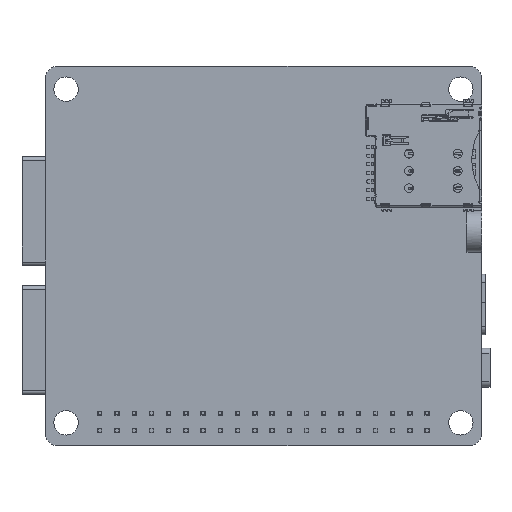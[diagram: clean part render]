
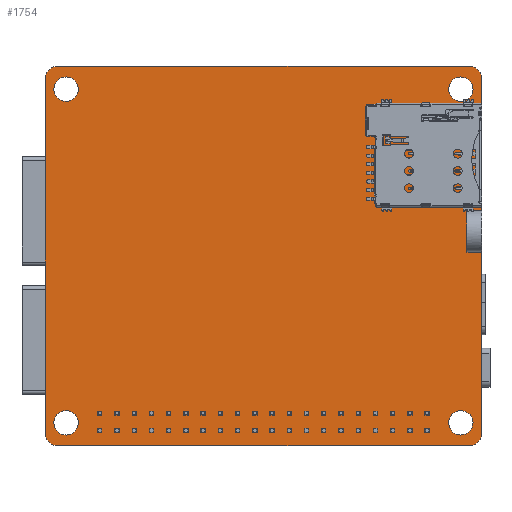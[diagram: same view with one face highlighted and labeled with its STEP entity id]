
A CAD part, top view. The second image highlights one B-rep face of the part: STEP entity #1754.
In plain terms, the highlighted planar face has unit normal (0, 0, 1) as drawn and (0, 0, -1) by its records, which use the part's own axes.
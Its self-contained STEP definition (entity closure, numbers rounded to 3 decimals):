
#1174=DIRECTION('',(1.,0.,0.));
#1175=VECTOR('',#1174,2.2);
#1176=CARTESIAN_POINT('',(30.,-0.55,0.));
#1177=LINE('',#1176,#1175);
#1181=CARTESIAN_POINT('',(30.2,26.,0.));
#1182=DIRECTION('',(0.,0.,1.));
#1183=DIRECTION('',(1.,0.,0.));
#1184=AXIS2_PLACEMENT_3D('',#1181,#1182,#1183);
#1189=CARTESIAN_POINT('',(-30.2,26.,0.));
#1190=DIRECTION('',(0.,0.,1.));
#1191=DIRECTION('',(0.,1.,0.));
#1192=AXIS2_PLACEMENT_3D('',#1189,#1190,#1191);
#1197=CARTESIAN_POINT('',(-30.2,-26.,0.));
#1198=DIRECTION('',(0.,0.,1.));
#1199=DIRECTION('',(-1.,0.,0.));
#1200=AXIS2_PLACEMENT_3D('',#1197,#1198,#1199);
#1205=CARTESIAN_POINT('',(30.2,-26.,0.));
#1206=DIRECTION('',(0.,0.,1.));
#1207=DIRECTION('',(0.,-1.,0.));
#1208=AXIS2_PLACEMENT_3D('',#1205,#1206,#1207);
#1213=DIRECTION('',(0.,1.,0.));
#1214=VECTOR('',#1213,6.1);
#1215=CARTESIAN_POINT('',(30.,-6.65,0.));
#1216=LINE('',#1215,#1214);
#1220=CARTESIAN_POINT('',(29.1,24.6,0.));
#1221=DIRECTION('',(0.,0.,-1.));
#1222=DIRECTION('',(-1.,0.,0.));
#1223=AXIS2_PLACEMENT_3D('',#1220,#1221,#1222);
#1228=CARTESIAN_POINT('',(29.1,24.6,0.));
#1229=DIRECTION('',(0.,0.,-1.));
#1230=DIRECTION('',(1.,0.,0.));
#1231=AXIS2_PLACEMENT_3D('',#1228,#1229,#1230);
#1236=CARTESIAN_POINT('',(-29.1,-24.6,0.));
#1237=DIRECTION('',(0.,0.,-1.));
#1238=DIRECTION('',(-1.,0.,0.));
#1239=AXIS2_PLACEMENT_3D('',#1236,#1237,#1238);
#1244=CARTESIAN_POINT('',(-29.1,-24.6,0.));
#1245=DIRECTION('',(0.,0.,-1.));
#1246=DIRECTION('',(1.,0.,0.));
#1247=AXIS2_PLACEMENT_3D('',#1244,#1245,#1246);
#1252=CARTESIAN_POINT('',(29.1,-24.6,0.));
#1253=DIRECTION('',(0.,0.,-1.));
#1254=DIRECTION('',(-1.,0.,0.));
#1255=AXIS2_PLACEMENT_3D('',#1252,#1253,#1254);
#1260=CARTESIAN_POINT('',(29.1,-24.6,0.));
#1261=DIRECTION('',(0.,0.,-1.));
#1262=DIRECTION('',(1.,0.,0.));
#1263=AXIS2_PLACEMENT_3D('',#1260,#1261,#1262);
#1268=CARTESIAN_POINT('',(-29.1,24.6,0.));
#1269=DIRECTION('',(0.,0.,-1.));
#1270=DIRECTION('',(-1.,0.,0.));
#1271=AXIS2_PLACEMENT_3D('',#1268,#1269,#1270);
#1276=CARTESIAN_POINT('',(-29.1,24.6,0.));
#1277=DIRECTION('',(0.,0.,-1.));
#1278=DIRECTION('',(1.,0.,0.));
#1279=AXIS2_PLACEMENT_3D('',#1276,#1277,#1278);
#1319=DIRECTION('',(1.,0.,0.));
#1320=VECTOR('',#1319,2.2);
#1321=CARTESIAN_POINT('',(30.,-6.65,0.));
#1322=LINE('',#1321,#1320);
#1333=DIRECTION('',(0.,-1.,0.));
#1334=VECTOR('',#1333,19.35);
#1335=CARTESIAN_POINT('',(32.2,-6.65,0.));
#1336=LINE('',#1335,#1334);
#1354=DIRECTION('',(-1.,0.,0.));
#1355=VECTOR('',#1354,60.4);
#1356=CARTESIAN_POINT('',(30.2,-28.,0.));
#1357=LINE('',#1356,#1355);
#1375=DIRECTION('',(0.,1.,0.));
#1376=VECTOR('',#1375,52.);
#1377=CARTESIAN_POINT('',(-32.2,-26.,0.));
#1378=LINE('',#1377,#1376);
#1396=DIRECTION('',(1.,0.,0.));
#1397=VECTOR('',#1396,60.4);
#1398=CARTESIAN_POINT('',(-30.2,28.,0.));
#1399=LINE('',#1398,#1397);
#1541=DIRECTION('',(0.,-1.,0.));
#1542=VECTOR('',#1541,26.55);
#1543=CARTESIAN_POINT('',(32.2,26.,0.));
#1544=LINE('',#1543,#1542);
#1604=CARTESIAN_POINT('',(30.,-0.55,0.));
#1605=CARTESIAN_POINT('',(32.2,-0.55,0.));
#1606=VERTEX_POINT('',#1604);
#1607=VERTEX_POINT('',#1605);
#1608=CARTESIAN_POINT('',(32.2,26.,0.));
#1609=VERTEX_POINT('',#1608);
#1610=CARTESIAN_POINT('',(30.2,28.,0.));
#1611=VERTEX_POINT('',#1610);
#1612=CARTESIAN_POINT('',(-30.2,28.,0.));
#1613=VERTEX_POINT('',#1612);
#1614=CARTESIAN_POINT('',(-32.2,26.,0.));
#1615=VERTEX_POINT('',#1614);
#1616=CARTESIAN_POINT('',(-32.2,-26.,0.));
#1617=VERTEX_POINT('',#1616);
#1618=CARTESIAN_POINT('',(-30.2,-28.,0.));
#1619=VERTEX_POINT('',#1618);
#1620=CARTESIAN_POINT('',(30.2,-28.,0.));
#1621=VERTEX_POINT('',#1620);
#1622=CARTESIAN_POINT('',(32.2,-26.,0.));
#1623=VERTEX_POINT('',#1622);
#1624=CARTESIAN_POINT('',(32.2,-6.65,0.));
#1625=VERTEX_POINT('',#1624);
#1626=CARTESIAN_POINT('',(30.,-6.65,0.));
#1627=VERTEX_POINT('',#1626);
#1628=CARTESIAN_POINT('',(27.3,24.6,0.));
#1629=CARTESIAN_POINT('',(30.9,24.6,0.));
#1630=VERTEX_POINT('',#1628);
#1631=VERTEX_POINT('',#1629);
#1632=CARTESIAN_POINT('',(-30.9,-24.6,0.));
#1633=CARTESIAN_POINT('',(-27.3,-24.6,0.));
#1634=VERTEX_POINT('',#1632);
#1635=VERTEX_POINT('',#1633);
#1636=CARTESIAN_POINT('',(27.3,-24.6,0.));
#1637=CARTESIAN_POINT('',(30.9,-24.6,0.));
#1638=VERTEX_POINT('',#1636);
#1639=VERTEX_POINT('',#1637);
#1640=CARTESIAN_POINT('',(-30.9,24.6,0.));
#1641=CARTESIAN_POINT('',(-27.3,24.6,0.));
#1642=VERTEX_POINT('',#1640);
#1643=VERTEX_POINT('',#1641);
#1700=CARTESIAN_POINT('',(0.,0.,0.));
#1701=DIRECTION('',(0.,0.,1.));
#1702=DIRECTION('',(1.,0.,0.));
#1703=AXIS2_PLACEMENT_3D('',#1700,#1701,#1702);
#1704=PLANE('',#1703);
#1706=ORIENTED_EDGE('',*,*,#1705,.T.);
#1708=ORIENTED_EDGE('',*,*,#1707,.F.);
#1709=ORIENTED_EDGE('',*,*,#1689,.T.);
#1711=ORIENTED_EDGE('',*,*,#1710,.F.);
#1713=ORIENTED_EDGE('',*,*,#1712,.T.);
#1715=ORIENTED_EDGE('',*,*,#1714,.F.);
#1717=ORIENTED_EDGE('',*,*,#1716,.T.);
#1719=ORIENTED_EDGE('',*,*,#1718,.F.);
#1721=ORIENTED_EDGE('',*,*,#1720,.T.);
#1723=ORIENTED_EDGE('',*,*,#1722,.F.);
#1725=ORIENTED_EDGE('',*,*,#1724,.F.);
#1727=ORIENTED_EDGE('',*,*,#1726,.T.);
#1728=EDGE_LOOP('',(#1706,#1708,#1709,#1711,#1713,#1715,#1717,#1719,#1721,#1723,
#1725,#1727));
#1729=FACE_OUTER_BOUND('',#1728,.F.);
#1731=ORIENTED_EDGE('',*,*,#1730,.T.);
#1733=ORIENTED_EDGE('',*,*,#1732,.T.);
#1734=EDGE_LOOP('',(#1731,#1733));
#1735=FACE_BOUND('',#1734,.F.);
#1737=ORIENTED_EDGE('',*,*,#1736,.T.);
#1739=ORIENTED_EDGE('',*,*,#1738,.T.);
#1740=EDGE_LOOP('',(#1737,#1739));
#1741=FACE_BOUND('',#1740,.F.);
#1743=ORIENTED_EDGE('',*,*,#1742,.T.);
#1745=ORIENTED_EDGE('',*,*,#1744,.T.);
#1746=EDGE_LOOP('',(#1743,#1745));
#1747=FACE_BOUND('',#1746,.F.);
#1749=ORIENTED_EDGE('',*,*,#1748,.T.);
#1751=ORIENTED_EDGE('',*,*,#1750,.T.);
#1752=EDGE_LOOP('',(#1749,#1751));
#1753=FACE_BOUND('',#1752,.F.);
#1754=ADVANCED_FACE('',(#1729,#1735,#1741,#1747,#1753),#1704,.F.);
#1185=CIRCLE('',#1184,2.);
#1193=CIRCLE('',#1192,2.);
#1201=CIRCLE('',#1200,2.);
#1209=CIRCLE('',#1208,2.);
#1224=CIRCLE('',#1223,1.8);
#1232=CIRCLE('',#1231,1.8);
#1240=CIRCLE('',#1239,1.8);
#1248=CIRCLE('',#1247,1.8);
#1256=CIRCLE('',#1255,1.8);
#1264=CIRCLE('',#1263,1.8);
#1272=CIRCLE('',#1271,1.8);
#1280=CIRCLE('',#1279,1.8);
#1689=EDGE_CURVE('',#1609,#1611,#1185,.T.);
#1705=EDGE_CURVE('',#1606,#1607,#1177,.T.);
#1707=EDGE_CURVE('',#1609,#1607,#1544,.T.);
#1710=EDGE_CURVE('',#1613,#1611,#1399,.T.);
#1712=EDGE_CURVE('',#1613,#1615,#1193,.T.);
#1714=EDGE_CURVE('',#1617,#1615,#1378,.T.);
#1716=EDGE_CURVE('',#1617,#1619,#1201,.T.);
#1718=EDGE_CURVE('',#1621,#1619,#1357,.T.);
#1720=EDGE_CURVE('',#1621,#1623,#1209,.T.);
#1722=EDGE_CURVE('',#1625,#1623,#1336,.T.);
#1724=EDGE_CURVE('',#1627,#1625,#1322,.T.);
#1726=EDGE_CURVE('',#1627,#1606,#1216,.T.);
#1730=EDGE_CURVE('',#1630,#1631,#1224,.T.);
#1732=EDGE_CURVE('',#1631,#1630,#1232,.T.);
#1736=EDGE_CURVE('',#1634,#1635,#1240,.T.);
#1738=EDGE_CURVE('',#1635,#1634,#1248,.T.);
#1742=EDGE_CURVE('',#1638,#1639,#1256,.T.);
#1744=EDGE_CURVE('',#1639,#1638,#1264,.T.);
#1748=EDGE_CURVE('',#1642,#1643,#1272,.T.);
#1750=EDGE_CURVE('',#1643,#1642,#1280,.T.);
